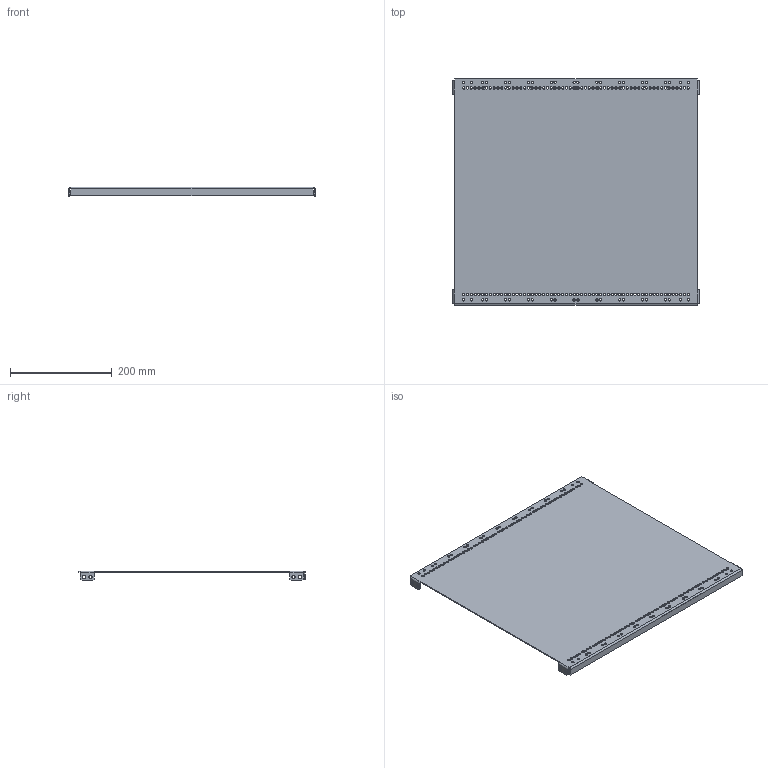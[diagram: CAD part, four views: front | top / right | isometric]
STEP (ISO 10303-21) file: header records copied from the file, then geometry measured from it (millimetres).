
FILE_DESCRIPTION(('STEP AP203'), '1');
FILE_NAME('Ïàíåëü áîêîâàÿ ðåëåéíîãî îòñåêà Â450õÃ600 ìì OptiBox M (2 øò) 419078 ÊÝÀÇ', '', ('UNSPECIFIED'), ('UNSPECIFIED'), 'C3D Converter', 'C3D Toolkit', '');
FILE_SCHEMA(('CONFIG_CONTROL_DESIGN'));
Length unit declared in the file: millimetre
Bounding box: 485 x 447 x 19 mm (x, y, z)
Volume: 438475.4 mm3; surface area: 447937.9 mm2
Topology: 1 solids, 1 shells, 304 faces, 866 edges, 564 vertices
Faces by surface type: cylinder 182, plane 122
Full cylindrical faces by diameter (mm): 4.6 x164, 6.3 x8
Entity records: 9934 total; most frequent: DIRECTION 1668, CARTESIAN_POINT 1563, ORIENTED_EDGE 1388, EDGE_LOOP 856, EDGE_CURVE 694, AXIS2_PLACEMENT_3D 669, VERTEX_POINT 564, FACE_BOUND 512
